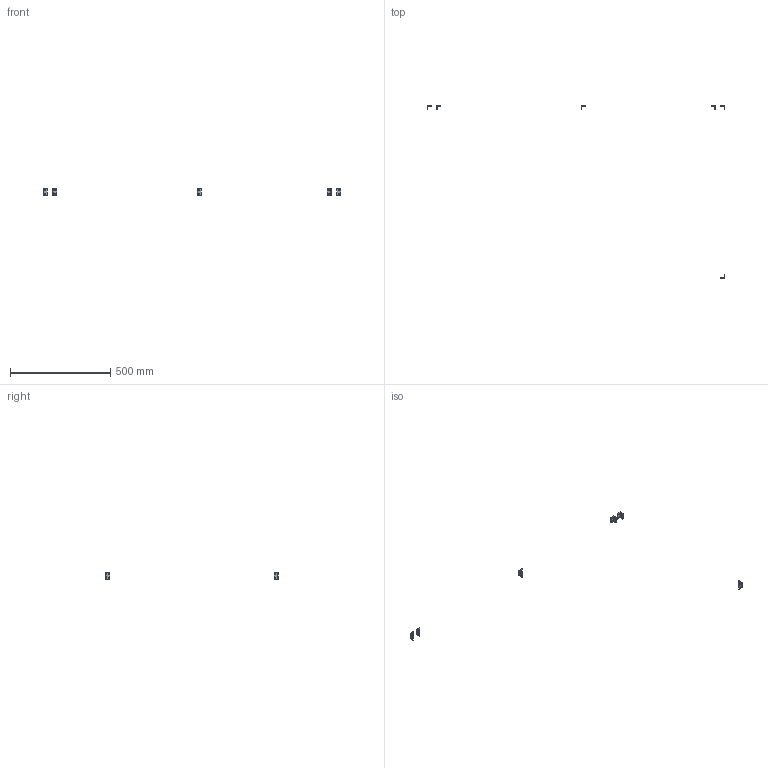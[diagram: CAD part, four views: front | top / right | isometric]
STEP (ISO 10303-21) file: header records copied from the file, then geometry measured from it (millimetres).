
FILE_DESCRIPTION(/* description */ (''),/* implementation_level */ '2;1');
FILE_NAME(/* name */ 'Y-E01D~1',/* time_stamp */ '2014-02-14T19:40:18+01:00',/* author */ (''),/* organization */ (''),/* preprocessor_version */ 'ST-DEVELOPER v14',/* originating_system */ '',/* authorisation */ '');
FILE_SCHEMA (('AUTOMOTIVE_DESIGN'));
Length unit declared in the file: millimetre
Products named in the file (2): Document; angle bracket, double
Assembly tree (4 placements, depth 2):
  Document
    angle bracket, double  x4
Bounding box: 1484 x 860 x 34 mm (x, y, z)
Volume: 20990.9 mm3; surface area: 17773 mm2
Topology: 6 solids, 6 shells, 96 faces, 252 edges, 168 vertices
Faces by surface type: plane 48, bspline 48
Entity records: 12118 total; most frequent: CARTESIAN_POINT 10327, B_SPLINE_CURVE_WITH_KNOTS 330, ORIENTED_EDGE 252, PCURVE 252, DEFINITIONAL_REPRESENTATION 252, SURFACE_CURVE 126, EDGE_CURVE 126, VERTEX_POINT 84
